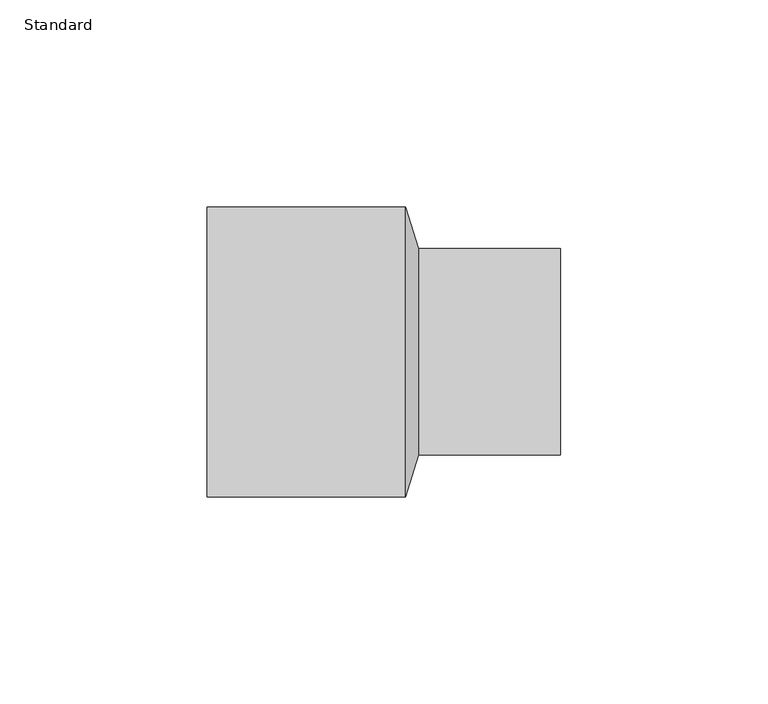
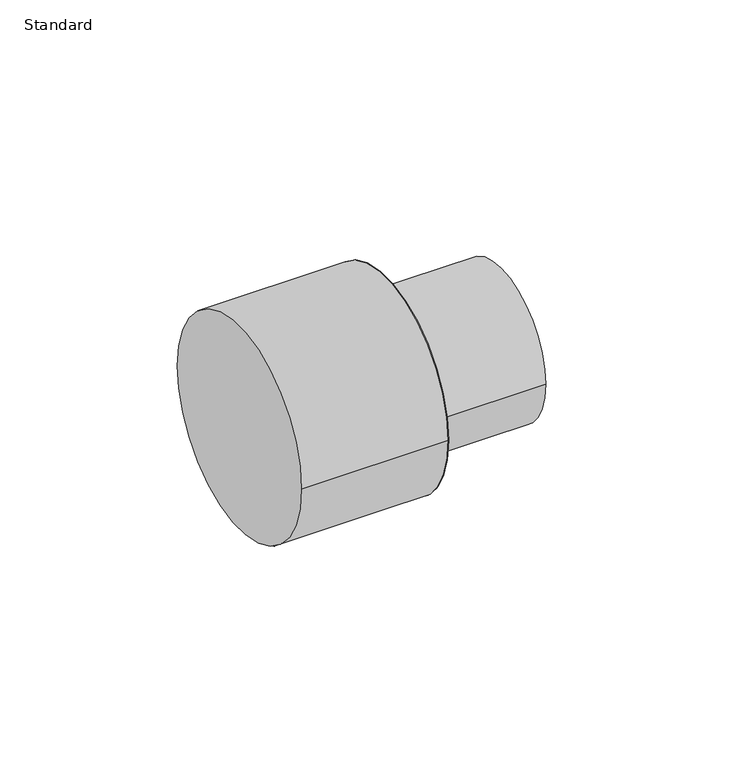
"""IFC4 building model written with IfcOpenShell, lengths in millimetres: pipe fitting geometry, M_Coupling Reducing - CPVC - Sch 40 : Standard."""

from ifc_helpers import new_model, si_unit, point, frame, origin, origin_2d, place, context, project, spatial, polyline, circle_curve, trimmed, segment, composite_curve, outline, extrude, source, transform, mapped, element, save
from ifc_brep_helpers import plane_surface, revolved_surface, advanced_brep


def standard_5079833c(model_context):
    return source(origin(), model_context, "Body", "SolidModel", [
        advanced_brep(
        [(51.096875, -24.9149219, 0.0), (51.096875, 24.9149219, 0.0), (47.921875, -34.9949219, 0.0), (47.921875, 34.9949219, 0.0)],
        [
            (0, 1, circle_curve(frame((51.096875, 0.0, 0.0), z_axis=(1.0, -4.273914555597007e-12, 0.0), x_axis=(-4.273898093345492e-12, -1.0, 0.0)), 24.9149219)),
            (1, 0, circle_curve(frame((51.096875, 0.0, 0.0), z_axis=(1.0, -4.273914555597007e-12, 0.0), x_axis=(4.273898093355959e-12, 1.0, 0.0)), 24.9149219)),
            (2, 3, circle_curve(frame((47.921875, 0.0, 0.0), z_axis=(-1.0, 4.273914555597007e-12, 0.0), x_axis=(4.273898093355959e-12, 1.0, 0.0)), 34.9949219)),
            (3, 2, circle_curve(frame((47.921875, 0.0, 0.0), z_axis=(-1.0, 4.273914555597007e-12, 0.0), x_axis=(-4.273898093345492e-12, -1.0, 0.0)), 34.9949219)),
            (3, 1),
            (0, 2),
        ],
        [
            plane_surface(frame((51.096875, 0.0, 0.0), z_axis=(1.0, 0.0, 0.0), x_axis=(0.0, 0.0, -1.0))),
            plane_surface(frame((47.921875, 0.0, 0.0), z_axis=(-1.0, 0.0, 0.0), x_axis=(0.0, 0.0, -1.0))),
            revolved_surface(polyline([(51.096875, -24.9149218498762, 0.0), (47.92187499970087, -34.99492190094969, 0.0)]), (58.944581, 0.0, 0.0), (-1.0, 4.273914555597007e-12, 0.0)),
            revolved_surface(polyline([(51.09687500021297, 24.914921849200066, 0.0), (47.921875, 34.9949219, 0.0)]), (58.944581, 0.0, 0.0), (-1.0, 4.273914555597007e-12, 0.0)),
        ],
        [
            (0, [[1, 2]]),
            (1, [[3, 4]]),
            (2, [[-4, 5, -1, 6]]),
            (3, [[-3, -6, -2, -5]]),
        ],
    ),
        extrude(outline(composite_curve([segment(trimmed(circle_curve(origin_2d(), 24.9149219), [point((-24.9149219, 0.0))], [point((24.9149219, 0.0))], False, "CARTESIAN"), True, "CONTINUOUS"), segment(trimmed(circle_curve(origin_2d(), 24.9149219), [point((24.9149219, 0.0))], [point((-24.9149219, 0.0))], False, "CARTESIAN"), True, "CONTINUOUS")], self_intersect=False)), frame((51.096875, 0.0, 0.0), z_axis=(1.0, 0.0, 0.0), x_axis=(0.0, 1.0, 0.0)), (0.0, 0.0, 1.0), 34.241875),
        extrude(outline(composite_curve([segment(trimmed(circle_curve(origin_2d(), 34.9949219), [point((-34.9949219, 0.0))], [point((34.9949219, 0.0))], False, "CARTESIAN"), True, "CONTINUOUS"), segment(trimmed(circle_curve(origin_2d(), 34.9949219), [point((34.9949219, 0.0))], [point((-34.9949219, 0.0))], False, "CARTESIAN"), True, "CONTINUOUS")], self_intersect=False)), frame((0.0, 0.0, 0.0), z_axis=(1.0, 0.0, 0.0), x_axis=(0.0, 1.0, 0.0)), (0.0, 0.0, 1.0), 47.921875),
    ])


if __name__ == "__main__":
    model = new_model("IFC4")
    model_context = context("Model", 3, world=origin())
    ifc_project = project(units=[si_unit("LENGTHUNIT", "METRE", prefix="MILLI")], contexts=[model_context])
    site = spatial("IfcSite", under=ifc_project)
    building = spatial("IfcBuilding", under=site)
    placement = place(None, origin())
    standard_shape = standard_5079833c(model_context)
    element("IfcPipeFitting", 1, ObjectType="M_Coupling Reducing - CPVC - Sch 40 : Standard", at=placement, inside=building, context=model_context, shape_type="MappedRepresentation", body=[
        mapped(standard_shape, transform((0.0, 0.0, 0.0), x_axis=(1.0, 0.0, 0.0), y_axis=(0.0, 1.0, 0.0), z_axis=(0.0, 0.0, 1.0))),
    ])
    save(model, "model.ifc")
